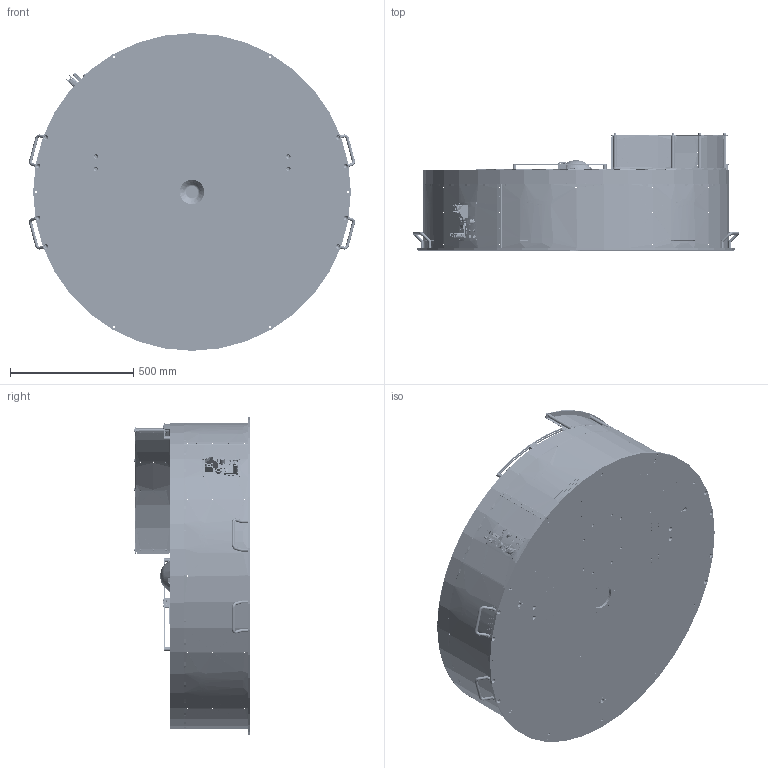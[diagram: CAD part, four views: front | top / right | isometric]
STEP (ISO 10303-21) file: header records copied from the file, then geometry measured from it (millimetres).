
FILE_DESCRIPTION (( 'STEP AP203' ), '1' );
FILE_NAME ('GM001120.STEP', '2024-04-09T08:07:54', ( '' ), ( '' ), 'SwSTEP 2.0', 'SolidWorks 2023', '' );
FILE_SCHEMA (( 'CONFIG_CONTROL_DESIGN' ));
Length unit declared in the file: millimetre
Products named in the file (52): CM000008_003; CE000276; GM001120; CE000418; CM000008_001; CM000008; CE000419; CM000686_002; PD003263; CE000420; PD003272; CM000686; CE000005; CE000013; PD003220; PD003269; PD003262; PD006343; CM000166; PD004854; PD006333; PD003259; CM000043; CM000006; CM000008_005; PD006338; CM000008_004; CM000026; PD006337; PD003221; PD000043; PD003274; PD001360_FB500; CM000025; PD003219; CM000027; CM000008_002; CE000421; PD003267; PD003218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
Assembly tree (108 placements, depth 3):
  GM001120
    CM000166  x8
    CM000027  x4
    CM000051  x4
    CM000024  x10
    CM000026  x10
    CM000025  x4
    CM000043  x2
    PD003218
    PD003219
    PD003221  x2
    PD003220
    PD003244
    PD003249
    PD006333
    PD001360_FB500
    PD003259  x2
    PD003261
    PD006338  x2
    PD006337  x4
    PD003267  x2
    PD000043  x4
    PD003263
    PD003272  x4
    PD003269
    PD003317
    PD001119  x2
    PD006343
    PD006344
    PD003274
    PD003262
    PD004854
    CE000007
    CE000013  x2
    CE000005
    CE000316
    CE000276
    CE000420
    CE000419
    CE000418
    CE000421
    CM000006  x4
    CM000008
      CM000008_001
      CM000008_003  x2
      CM000008_002
      CM000008_004
      CM000008_005
    CM000686
      CM000686_001
      CM000686_002
    CM000001  x4
Bounding box: 1322.61 x 475 x 1290 mm (x, y, z)
Volume: 34847956.4 mm3; surface area: 10778245.5 mm2
Topology: 109 solids, 128 shells, 11555 faces, 30917 edges, 19931 vertices
Faces by surface type: plane 5165, cylinder 3252, bspline 1730, cone 1039, torus 310, sphere 59
Entity records: 517466 total; most frequent: CARTESIAN_POINT 265489, ORIENTED_EDGE 55510, DIRECTION 43346, EDGE_CURVE 27957, VERTEX_POINT 18276, AXIS2_PLACEMENT_3D 15857, EDGE_LOOP 12054, VECTOR 11632
